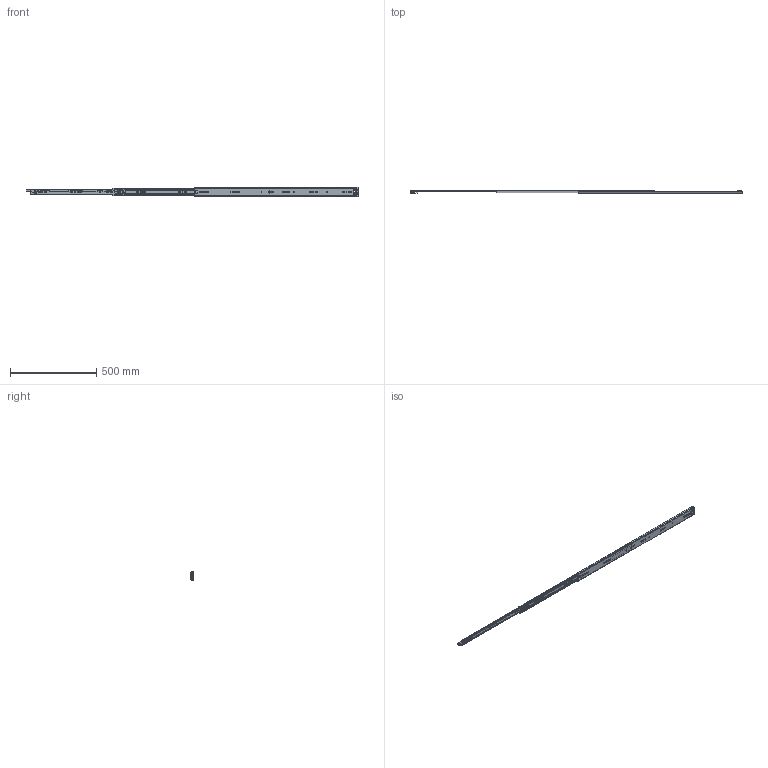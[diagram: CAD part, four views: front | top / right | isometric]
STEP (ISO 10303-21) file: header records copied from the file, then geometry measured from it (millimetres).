
FILE_DESCRIPTION((''),'2;1');
FILE_NAME('KP-57-01ZUZHUANGTU-38YOU_ASM','2023-04-03T',('jishu015'),(''),'PRO/ENGINEER BY PARAMETRIC TECHNOLOGY CORPORATION, 2010280','PRO/ENGINEER BY PARAMETRIC TECHNOLOGY CORPORATION, 2010280','');
FILE_SCHEMA(('CONFIG_CONTROL_DESIGN'));
Products named in the file (21): KP-57-01WEIKE-18________; 1057WEIJIAO________; WAIKE_______ASM; KP-57-01ZHONGGUI-18________; ZHONGGUIPEIJIAN-11______; ZHONGGUISUOKOU-11______; KP-57-01ZHONGGUI-18_________ASM; 1057XIAOZHUJIA________; 1057-5-6GANZHU________; 1057XIAOZHUJIA-14GE_________ASM; KP-57-01NEIGUI-18________; PJ-57-08______; DIAOPIAN-11______; 50XINSUOKOU-1______; 1053-3SBANJI122____; JIAO11____; KP-57-01NEIGUI-18_________ASM; 1053ZHUTIAO-175____________; 53-5-6GANZHU____________; 1053ZHUTIAO-175MM_______ASM; KP-57-01ZUZHUANGTU-38YOU_ASM
Assembly tree (104 placements, depth 3):
  KP-57-01ZUZHUANGTU-38YOU_ASM
    WAIKE_______ASM
      KP-57-01WEIKE-18________
      1057WEIJIAO________
    KP-57-01ZHONGGUI-18_________ASM
      KP-57-01ZHONGGUI-18________
      ZHONGGUIPEIJIAN-11______
      ZHONGGUISUOKOU-11______
    1057XIAOZHUJIA-14GE_________ASM
      1057XIAOZHUJIA________
      1057-5-6GANZHU________  x68
    KP-57-01NEIGUI-18_________ASM
      KP-57-01NEIGUI-18________
      PJ-57-08______
      DIAOPIAN-11______
      50XINSUOKOU-1______
      1053-3SBANJI122____
      JIAO11____
    1053ZHUTIAO-175MM_______ASM  x2
      1053ZHUTIAO-175____________
      53-5-6GANZHU____________
Bounding box: 1926.94 x 19 x 57.67 mm (x, y, z)
Volume: 416950.8 mm3; surface area: 455127.6 mm2
Topology: 117 solids, 117 shells, 2872 faces, 8334 edges, 5197 vertices
Faces by surface type: cylinder 1253, plane 1151, sphere 215, bspline 127, cone 84, extrusion 23, torus 19
Entity records: 92318 total; most frequent: CARTESIAN_POINT 22602, ORIENTED_EDGE 14776, DIRECTION 14364, EDGE_CURVE 7388, AXIS2_PLACEMENT_3D 4956, VERTEX_POINT 4777, VECTOR 4452, LINE 4429
